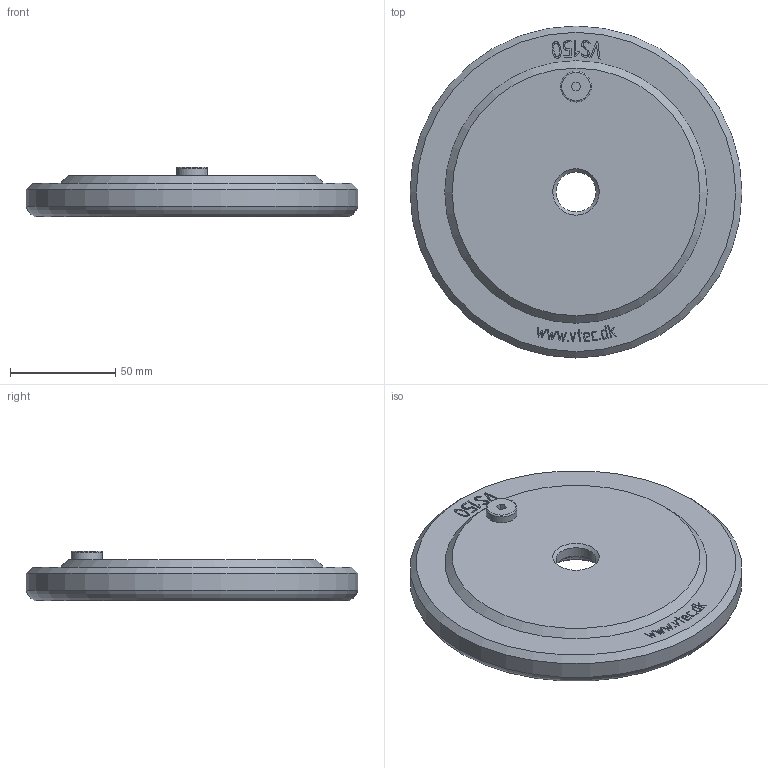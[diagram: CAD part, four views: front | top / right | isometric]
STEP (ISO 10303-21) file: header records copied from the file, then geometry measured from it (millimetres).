
FILE_DESCRIPTION( ( 'STEP AP203' ), '1' );
FILE_NAME( 'C:/撲啗紫賊-02/3D-蘋驍煎斜/Vacuum Pad/VS series/VS150.stp', '2006-04-24T11:58:06', ( ' ' ), ( ' ' ), 'XStep 1.0', ' ', ' ' );
FILE_SCHEMA( ( 'CONFIG_CONTROL_DESIGN) ( )' ) );
Length unit declared in the file: metre
Products named in the file (1): 1
Bounding box: 157.5 x 157.5 x 23.5 mm (x, y, z)
Volume: 231976.1 mm3; surface area: 48260 mm2
Topology: 1 solids, 1 shells, 177 faces, 446 edges, 295 vertices
Faces by surface type: extrusion 130, plane 32, cylinder 6, cone 6, torus 3
Full cylindrical faces by diameter (mm): 14.7 x2, 19 x1, 30 x1, 141.5 x1, 157.5 x1
Entity records: 6223 total; most frequent: CARTESIAN_POINT 2047, ORIENTED_EDGE 854, DIRECTION 636, VECTOR 498, EDGE_CURVE 427, LINE 368, VERTEX_POINT 293, EDGE_LOOP 220
